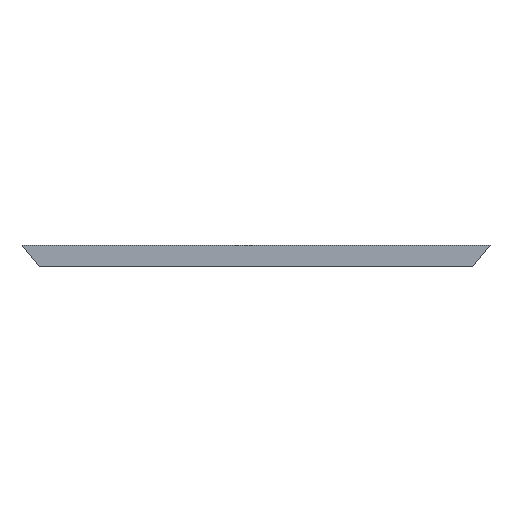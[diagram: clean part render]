
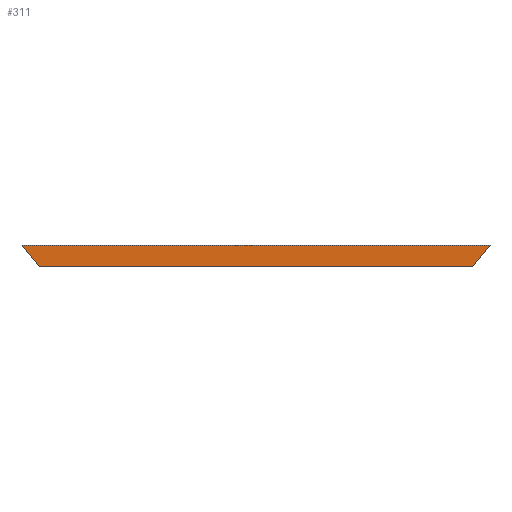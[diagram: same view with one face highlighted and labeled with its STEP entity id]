
A CAD part, front view. The second image highlights one B-rep face of the part: STEP entity #311.
In plain terms, the highlighted planar face has unit normal (0, -1, 0).
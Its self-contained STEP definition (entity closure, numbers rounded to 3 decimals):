
#24 = VERTEX_POINT('',#25);
#25 = CARTESIAN_POINT('',(2.,0.,0.));
#32 = PLANE('',#33);
#33 = AXIS2_PLACEMENT_3D('',#34,#35,#36);
#34 = CARTESIAN_POINT('',(2.,90.,0.));
#35 = DIRECTION('',(0.,0.,1.));
#36 = DIRECTION('',(1.,0.,-0.));
#44 = PLANE('',#45);
#45 = AXIS2_PLACEMENT_3D('',#46,#47,#48);
#46 = CARTESIAN_POINT('',(0.,90.,2.5));
#47 = DIRECTION('',(0.781,0.,0.625));
#48 = DIRECTION('',(0.625,0.,-0.781)
  );
#56 = EDGE_CURVE('',#24,#57,#59,.T.);
#57 = VERTEX_POINT('',#58);
#58 = CARTESIAN_POINT('',(52.,0.,0.));
#59 = SURFACE_CURVE('',#60,(#64,#71),.PCURVE_S1.);
#60 = LINE('',#61,#62);
#61 = CARTESIAN_POINT('',(2.,0.,0.));
#62 = VECTOR('',#63,1.);
#63 = DIRECTION('',(1.,0.,0.));
#64 = PCURVE('',#32,#65);
#65 = DEFINITIONAL_REPRESENTATION('',(#66),#70);
#66 = LINE('',#67,#68);
#67 = CARTESIAN_POINT('',(0.,-90.));
#68 = VECTOR('',#69,1.);
#69 = DIRECTION('',(1.,0.));
#70 = ( GEOMETRIC_REPRESENTATION_CONTEXT(2) 
PARAMETRIC_REPRESENTATION_CONTEXT() REPRESENTATION_CONTEXT('2D SPACE',''
  ) );
#71 = PCURVE('',#72,#77);
#72 = PLANE('',#73);
#73 = AXIS2_PLACEMENT_3D('',#74,#75,#76);
#74 = CARTESIAN_POINT('',(27.,0.,1.295));
#75 = DIRECTION('',(0.,-1.,0.));
#76 = DIRECTION('',(1.,0.,0.));
#77 = DEFINITIONAL_REPRESENTATION('',(#78),#82);
#78 = LINE('',#79,#80);
#79 = CARTESIAN_POINT('',(-25.,-1.295));
#80 = VECTOR('',#81,1.);
#81 = DIRECTION('',(1.,0.));
#82 = ( GEOMETRIC_REPRESENTATION_CONTEXT(2) 
PARAMETRIC_REPRESENTATION_CONTEXT() REPRESENTATION_CONTEXT('2D SPACE',''
  ) );
#100 = PLANE('',#101);
#101 = AXIS2_PLACEMENT_3D('',#102,#103,#104);
#102 = CARTESIAN_POINT('',(52.,90.,0.));
#103 = DIRECTION('',(-0.781,0.,0.625)
  );
#104 = DIRECTION('',(0.625,0.,0.781));
#144 = VERTEX_POINT('',#145);
#145 = CARTESIAN_POINT('',(0.,0.,2.5));
#159 = PLANE('',#160);
#160 = AXIS2_PLACEMENT_3D('',#161,#162,#163);
#161 = CARTESIAN_POINT('',(54.,90.,2.5));
#162 = DIRECTION('',(0.,0.,-1.));
#163 = DIRECTION('',(-1.,-0.,0.));
#171 = EDGE_CURVE('',#144,#24,#172,.T.);
#172 = SURFACE_CURVE('',#173,(#177,#184),.PCURVE_S1.);
#173 = LINE('',#174,#175);
#174 = CARTESIAN_POINT('',(0.,0.,2.5));
#175 = VECTOR('',#176,1.);
#176 = DIRECTION('',(0.625,0.,-0.781)
  );
#177 = PCURVE('',#44,#178);
#178 = DEFINITIONAL_REPRESENTATION('',(#179),#183);
#179 = LINE('',#180,#181);
#180 = CARTESIAN_POINT('',(0.,-90.));
#181 = VECTOR('',#182,1.);
#182 = DIRECTION('',(1.,0.));
#183 = ( GEOMETRIC_REPRESENTATION_CONTEXT(2) 
PARAMETRIC_REPRESENTATION_CONTEXT() REPRESENTATION_CONTEXT('2D SPACE',''
  ) );
#184 = PCURVE('',#72,#185);
#185 = DEFINITIONAL_REPRESENTATION('',(#186),#190);
#186 = LINE('',#187,#188);
#187 = CARTESIAN_POINT('',(-27.,1.205));
#188 = VECTOR('',#189,1.);
#189 = DIRECTION('',(0.625,-0.781));
#190 = ( GEOMETRIC_REPRESENTATION_CONTEXT(2) 
PARAMETRIC_REPRESENTATION_CONTEXT() REPRESENTATION_CONTEXT('2D SPACE',''
  ) );
#218 = EDGE_CURVE('',#57,#219,#221,.T.);
#219 = VERTEX_POINT('',#220);
#220 = CARTESIAN_POINT('',(54.,0.,2.5));
#221 = SURFACE_CURVE('',#222,(#226,#233),.PCURVE_S1.);
#222 = LINE('',#223,#224);
#223 = CARTESIAN_POINT('',(52.,0.,0.));
#224 = VECTOR('',#225,1.);
#225 = DIRECTION('',(0.625,0.,0.781));
#226 = PCURVE('',#100,#227);
#227 = DEFINITIONAL_REPRESENTATION('',(#228),#232);
#228 = LINE('',#229,#230);
#229 = CARTESIAN_POINT('',(0.,-90.));
#230 = VECTOR('',#231,1.);
#231 = DIRECTION('',(1.,0.));
#232 = ( GEOMETRIC_REPRESENTATION_CONTEXT(2) 
PARAMETRIC_REPRESENTATION_CONTEXT() REPRESENTATION_CONTEXT('2D SPACE',''
  ) );
#233 = PCURVE('',#72,#234);
#234 = DEFINITIONAL_REPRESENTATION('',(#235),#239);
#235 = LINE('',#236,#237);
#236 = CARTESIAN_POINT('',(25.,-1.295));
#237 = VECTOR('',#238,1.);
#238 = DIRECTION('',(0.625,0.781));
#239 = ( GEOMETRIC_REPRESENTATION_CONTEXT(2) 
PARAMETRIC_REPRESENTATION_CONTEXT() REPRESENTATION_CONTEXT('2D SPACE',''
  ) );
#311 = ADVANCED_FACE('',(#312),#72,.T.);
#312 = FACE_BOUND('',#313,.T.);
#313 = EDGE_LOOP('',(#314,#315,#316,#337));
#314 = ORIENTED_EDGE('',*,*,#56,.T.);
#315 = ORIENTED_EDGE('',*,*,#218,.T.);
#316 = ORIENTED_EDGE('',*,*,#317,.T.);
#317 = EDGE_CURVE('',#219,#144,#318,.T.);
#318 = SURFACE_CURVE('',#319,(#323,#330),.PCURVE_S1.);
#319 = LINE('',#320,#321);
#320 = CARTESIAN_POINT('',(54.,0.,2.5));
#321 = VECTOR('',#322,1.);
#322 = DIRECTION('',(-1.,0.,0.));
#323 = PCURVE('',#72,#324);
#324 = DEFINITIONAL_REPRESENTATION('',(#325),#329);
#325 = LINE('',#326,#327);
#326 = CARTESIAN_POINT('',(27.,1.205));
#327 = VECTOR('',#328,1.);
#328 = DIRECTION('',(-1.,0.));
#329 = ( GEOMETRIC_REPRESENTATION_CONTEXT(2) 
PARAMETRIC_REPRESENTATION_CONTEXT() REPRESENTATION_CONTEXT('2D SPACE',''
  ) );
#330 = PCURVE('',#159,#331);
#331 = DEFINITIONAL_REPRESENTATION('',(#332),#336);
#332 = LINE('',#333,#334);
#333 = CARTESIAN_POINT('',(0.,-90.));
#334 = VECTOR('',#335,1.);
#335 = DIRECTION('',(1.,0.));
#336 = ( GEOMETRIC_REPRESENTATION_CONTEXT(2) 
PARAMETRIC_REPRESENTATION_CONTEXT() REPRESENTATION_CONTEXT('2D SPACE',''
  ) );
#337 = ORIENTED_EDGE('',*,*,#171,.T.);
